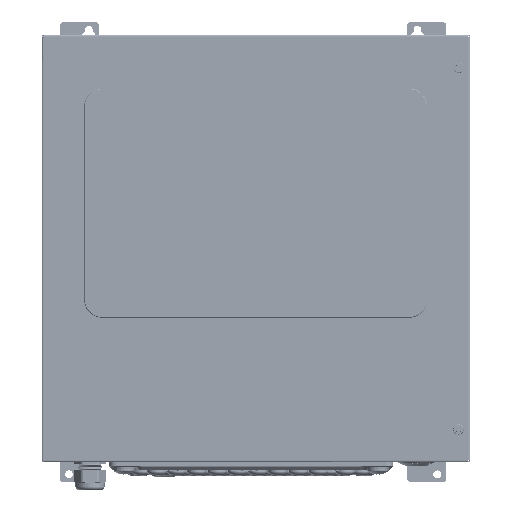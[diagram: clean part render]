
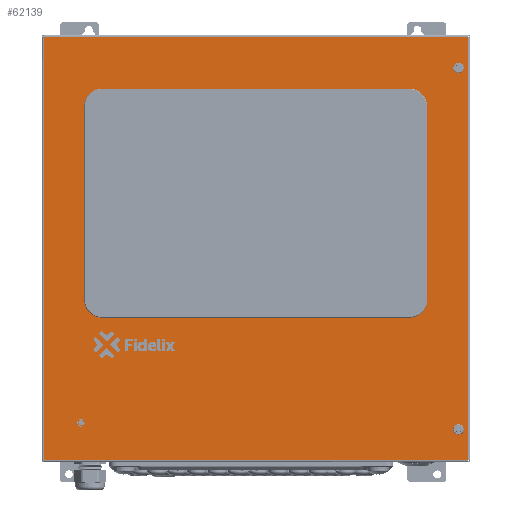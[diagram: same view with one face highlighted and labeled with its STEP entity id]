
A CAD part, top view. The second image highlights one B-rep face of the part: STEP entity #62139.
In plain terms, the highlighted planar face has unit normal (0, 0, 1).
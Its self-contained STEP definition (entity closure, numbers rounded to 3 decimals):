
#2328=PLANE('',#65829);
#4060=FACE_BOUND('',#19422,.T.);
#4061=FACE_BOUND('',#19423,.T.);
#4062=FACE_BOUND('',#19424,.T.);
#4063=FACE_BOUND('',#19425,.T.);
#6180=LINE('',#97398,#10669);
#6181=LINE('',#97402,#10670);
#6182=LINE('',#97406,#10671);
#6183=LINE('',#97409,#10672);
#6184=LINE('',#97422,#10673);
#6185=LINE('',#97424,#10674);
#6186=LINE('',#97426,#10675);
#6187=LINE('',#97427,#10676);
#10669=VECTOR('',#73284,10.);
#10670=VECTOR('',#73287,10.);
#10671=VECTOR('',#73290,10.);
#10672=VECTOR('',#73293,10.);
#10673=VECTOR('',#73304,10.);
#10674=VECTOR('',#73305,10.);
#10675=VECTOR('',#73306,10.);
#10676=VECTOR('',#73307,10.);
#15800=FACE_OUTER_BOUND('',#19421,.T.);
#19421=EDGE_LOOP('',(#43938,#43939,#43940,#43941,#43942,#43943,#43944,#43945));
#19422=EDGE_LOOP('',(#43946,#43947));
#19423=EDGE_LOOP('',(#43948,#43949));
#19424=EDGE_LOOP('',(#43950));
#19425=EDGE_LOOP('',(#43951,#43952,#43953,#43954));
#23461=CIRCLE('',#65830,1.);
#23462=CIRCLE('',#65831,1.);
#23463=CIRCLE('',#65832,1.);
#23464=CIRCLE('',#65833,1.);
#23465=CIRCLE('',#65834,3.2);
#23466=CIRCLE('',#65835,3.2);
#23467=CIRCLE('',#65836,3.2);
#23468=CIRCLE('',#65837,3.2);
#23469=CIRCLE('',#65838,2.);
#27522=VERTEX_POINT('',#97394);
#27523=VERTEX_POINT('',#97395);
#27524=VERTEX_POINT('',#97397);
#27525=VERTEX_POINT('',#97399);
#27526=VERTEX_POINT('',#97401);
#27527=VERTEX_POINT('',#97403);
#27528=VERTEX_POINT('',#97405);
#27529=VERTEX_POINT('',#97407);
#27530=VERTEX_POINT('',#97410);
#27531=VERTEX_POINT('',#97411);
#27532=VERTEX_POINT('',#97414);
#27533=VERTEX_POINT('',#97415);
#27534=VERTEX_POINT('',#97418);
#27535=VERTEX_POINT('',#97420);
#27536=VERTEX_POINT('',#97421);
#27537=VERTEX_POINT('',#97423);
#27538=VERTEX_POINT('',#97425);
#34003=EDGE_CURVE('',#27522,#27523,#23461,.T.);
#34004=EDGE_CURVE('',#27524,#27522,#6180,.T.);
#34005=EDGE_CURVE('',#27525,#27524,#23462,.T.);
#34006=EDGE_CURVE('',#27526,#27525,#6181,.T.);
#34007=EDGE_CURVE('',#27527,#27526,#23463,.T.);
#34008=EDGE_CURVE('',#27528,#27527,#6182,.T.);
#34009=EDGE_CURVE('',#27529,#27528,#23464,.T.);
#34010=EDGE_CURVE('',#27523,#27529,#6183,.T.);
#34011=EDGE_CURVE('',#27530,#27531,#23465,.T.);
#34012=EDGE_CURVE('',#27531,#27530,#23466,.T.);
#34013=EDGE_CURVE('',#27532,#27533,#23467,.T.);
#34014=EDGE_CURVE('',#27533,#27532,#23468,.T.);
#34015=EDGE_CURVE('',#27534,#27534,#23469,.T.);
#34016=EDGE_CURVE('',#27535,#27536,#6184,.T.);
#34017=EDGE_CURVE('',#27537,#27535,#6185,.T.);
#34018=EDGE_CURVE('',#27538,#27537,#6186,.T.);
#34019=EDGE_CURVE('',#27536,#27538,#6187,.T.);
#43938=ORIENTED_EDGE('',*,*,#34003,.F.);
#43939=ORIENTED_EDGE('',*,*,#34004,.F.);
#43940=ORIENTED_EDGE('',*,*,#34005,.F.);
#43941=ORIENTED_EDGE('',*,*,#34006,.F.);
#43942=ORIENTED_EDGE('',*,*,#34007,.F.);
#43943=ORIENTED_EDGE('',*,*,#34008,.F.);
#43944=ORIENTED_EDGE('',*,*,#34009,.F.);
#43945=ORIENTED_EDGE('',*,*,#34010,.F.);
#43946=ORIENTED_EDGE('',*,*,#34011,.F.);
#43947=ORIENTED_EDGE('',*,*,#34012,.F.);
#43948=ORIENTED_EDGE('',*,*,#34013,.F.);
#43949=ORIENTED_EDGE('',*,*,#34014,.F.);
#43950=ORIENTED_EDGE('',*,*,#34015,.F.);
#43951=ORIENTED_EDGE('',*,*,#34016,.F.);
#43952=ORIENTED_EDGE('',*,*,#34017,.F.);
#43953=ORIENTED_EDGE('',*,*,#34018,.F.);
#43954=ORIENTED_EDGE('',*,*,#34019,.F.);
#62139=ADVANCED_FACE('',(#15800,#4060,#4061,#4062,#4063),#2328,.F.);
#65829=AXIS2_PLACEMENT_3D('',#97393,#73280,#73281);
#65830=AXIS2_PLACEMENT_3D('',#97396,#73282,#73283);
#65831=AXIS2_PLACEMENT_3D('',#97400,#73285,#73286);
#65832=AXIS2_PLACEMENT_3D('',#97404,#73288,#73289);
#65833=AXIS2_PLACEMENT_3D('',#97408,#73291,#73292);
#65834=AXIS2_PLACEMENT_3D('',#97412,#73294,#73295);
#65835=AXIS2_PLACEMENT_3D('',#97413,#73296,#73297);
#65836=AXIS2_PLACEMENT_3D('',#97416,#73298,#73299);
#65837=AXIS2_PLACEMENT_3D('',#97417,#73300,#73301);
#65838=AXIS2_PLACEMENT_3D('',#97419,#73302,#73303);
#73280=DIRECTION('center_axis',(0.,0.,-1.));
#73281=DIRECTION('ref_axis',(-1.,0.,0.));
#73282=DIRECTION('center_axis',(0.,0.,
1.));
#73283=DIRECTION('ref_axis',(0.76,-0.65,0.));
#73284=DIRECTION('',(0.,1.,0.));
#73285=DIRECTION('center_axis',(0.,0.,
1.));
#73286=DIRECTION('ref_axis',(0.65,0.76,0.));
#73287=DIRECTION('',(-1.,0.,0.));
#73288=DIRECTION('center_axis',(0.,0.,
1.));
#73289=DIRECTION('ref_axis',(-0.76,0.65,0.));
#73290=DIRECTION('',(0.,-1.,0.));
#73291=DIRECTION('center_axis',(0.,0.,
1.));
#73292=DIRECTION('ref_axis',(-0.65,-0.76,0.));
#73293=DIRECTION('',(1.,0.,0.));
#73294=DIRECTION('center_axis',(0.,0.,1.));
#73295=DIRECTION('ref_axis',(-1.,0.,0.));
#73296=DIRECTION('center_axis',(0.,0.,1.));
#73297=DIRECTION('ref_axis',(-1.,0.,0.));
#73298=DIRECTION('center_axis',(0.,0.,1.));
#73299=DIRECTION('ref_axis',(-1.,0.,0.));
#73300=DIRECTION('center_axis',(0.,0.,1.));
#73301=DIRECTION('ref_axis',(-1.,0.,0.));
#73302=DIRECTION('center_axis',(0.,0.,1.));
#73303=DIRECTION('ref_axis',(-0.809,0.588,0.));
#73304=DIRECTION('',(0.,1.,0.));
#73305=DIRECTION('',(1.,0.,0.));
#73306=DIRECTION('',(0.,-1.,0.));
#73307=DIRECTION('',(-1.,0.,0.));
#97393=CARTESIAN_POINT('Origin',(24.206,-8.,116.25));
#97394=CARTESIAN_POINT('',(-137.294,118.39,116.25));
#97395=CARTESIAN_POINT('',(-137.184,118.5,116.25));
#97396=CARTESIAN_POINT('Origin',(-137.944,119.15,116.25));
#97397=CARTESIAN_POINT('',(-137.294,-203.39,116.25));
#97398=CARTESIAN_POINT('',(-137.294,-203.39,116.25));
#97399=CARTESIAN_POINT('',(-137.184,-203.5,116.25));
#97400=CARTESIAN_POINT('Origin',(-137.944,-204.15,116.25));
#97401=CARTESIAN_POINT('',(185.596,-203.5,116.25));
#97402=CARTESIAN_POINT('',(185.596,-203.5,116.25));
#97403=CARTESIAN_POINT('',(185.706,-203.39,116.25));
#97404=CARTESIAN_POINT('Origin',(186.356,-204.15,116.25));
#97405=CARTESIAN_POINT('',(185.706,118.39,116.25));
#97406=CARTESIAN_POINT('',(185.706,118.39,116.25));
#97407=CARTESIAN_POINT('',(185.596,118.5,116.25));
#97408=CARTESIAN_POINT('Origin',(186.356,119.15,116.25));
#97409=CARTESIAN_POINT('',(-137.184,118.5,116.25));
#97410=CARTESIAN_POINT('',(175.006,-180.,116.25));
#97411=CARTESIAN_POINT('',(181.406,-180.,116.25));
#97412=CARTESIAN_POINT('Origin',(178.206,-180.,116.25));
#97413=CARTESIAN_POINT('Origin',(178.206,-180.,116.25));
#97414=CARTESIAN_POINT('',(175.006,95.,116.25));
#97415=CARTESIAN_POINT('',(181.406,95.,116.25));
#97416=CARTESIAN_POINT('Origin',(178.206,95.,116.25));
#97417=CARTESIAN_POINT('Origin',(178.206,95.,116.25));
#97418=CARTESIAN_POINT('',(-110.794,-175.,116.25));
#97419=CARTESIAN_POINT('Origin',(-108.794,-175.,116.25));
#97420=CARTESIAN_POINT('',(138.206,-78.,116.25));
#97421=CARTESIAN_POINT('',(138.206,62.,116.25));
#97422=CARTESIAN_POINT('',(138.206,-78.,116.25));
#97423=CARTESIAN_POINT('',(-89.794,-78.,116.25));
#97424=CARTESIAN_POINT('',(-89.794,-78.,116.25));
#97425=CARTESIAN_POINT('',(-89.794,62.,116.25));
#97426=CARTESIAN_POINT('',(-89.794,62.,116.25));
#97427=CARTESIAN_POINT('',(138.206,62.,116.25));
